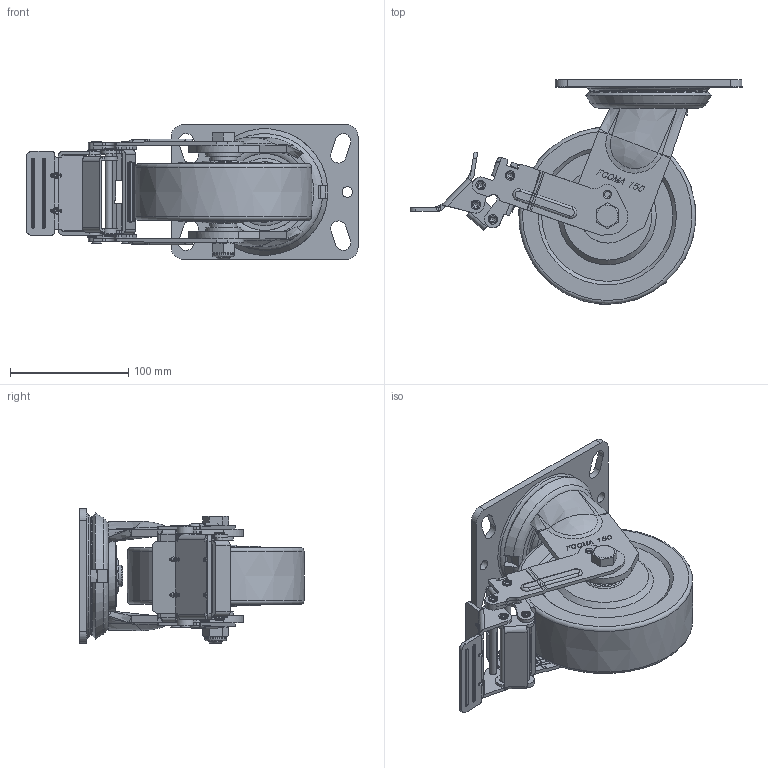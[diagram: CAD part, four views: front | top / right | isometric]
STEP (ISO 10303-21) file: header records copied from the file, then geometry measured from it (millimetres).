
FILE_DESCRIPTION(/* description */ (''),/* implementation_level */ '2;1');
FILE_NAME(/* name */ 'E:\★.DWG\PMH-SERIES\3D\홈페이지용\20180122-STEP\PMH-150-BSF-MCD.stp',/* time_stamp */ '2018-01-22T14:41:50+09:00',/* author */ ('장용하'),/* organization */ (''),/* preprocessor_version */ 'ST-DEVELOPER v16.13',/* originating_system */ 'Autodesk Inventor 2018',/* authorisation */ '');
FILE_SCHEMA (('AUTOMOTIVE_DESIGN { 1 0 10303 214 3 1 1 }'));
Products named in the file (1): PMH-150-BSF-MCD_Shrinkwrap_1
Bounding box: 280.92 x 189.79 x 114 mm (x, y, z)
Volume: 1248301.2 mm3; surface area: 196610.6 mm2
Topology: 3 solids, 3 shells, 1744 faces, 4659 edges, 2984 vertices
Faces by surface type: plane 1148, cylinder 352, bspline 133, torus 73, cone 30, sphere 8
Full cylindrical faces by diameter (mm): 4 x4, 5 x2, 6 x4, 6.2 x13, 7.7 x2, 8 x10, 9 x2, 12 x1, 18 x1, 18.5 x1, 21.667 x2, 21.867 x2, 22.9 x2, 28.133 x2, 28.333 x2, 30 x2, 35 x2, 65 x1, 90.814 x1
Entity records: 57248 total; most frequent: CARTESIAN_POINT 12650, ORIENTED_EDGE 8970, DIRECTION 8529, EDGE_CURVE 4485, LINE 3363, VECTOR 3363, VERTEX_POINT 2950, AXIS2_PLACEMENT_3D 2583
